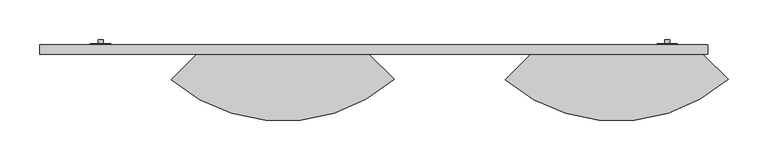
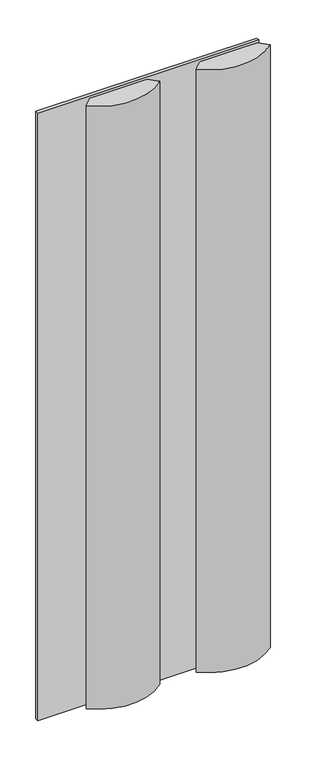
"""IFC4 building model written with IfcOpenShell, lengths in millimetres: proxy geometry, Arktura-SoundForm-Arc-RFA : Arktura-SoundForm-Arc-RFA."""

from ifc_helpers import new_model, si_unit, point, frame, frame_2d, origin, origin_with_axes, place, context, project, spatial, polyline, circle_curve, trimmed, segment, composite_curve, outline, extrude, source, transform, mapped, element, save


def generic_models_df765468(model_context):
    return source(origin(), model_context, "Body", "SweptSolid", [
        extrude(outline(polyline([(-152.4, -31.75), (-177.8, -31.75), (-177.8, -30.3215536), (-152.4, -30.3215536), (-152.4, -31.75)])), frame((0.0, 0.0, 1206.5), z_axis=(0.0, 0.0, 1.0), x_axis=(1.0, 0.0, 0.0)), (0.0, 0.0, 1.0), 25.4),
        extrude(outline(composite_curve([segment(trimmed(circle_curve(frame_2d((1219.2, -165.1)), 3.175), [point((1219.2, -168.275))], [point((1219.2, -161.925))], False, "CARTESIAN"), True, "CONTINUOUS"), segment(trimmed(circle_curve(frame_2d((1219.2, -165.1)), 3.175), [point((1219.2, -161.925))], [point((1219.2, -168.275))], False, "CARTESIAN"), True, "CONTINUOUS")], self_intersect=False)), frame((0.0, -30.3215536, 0.0), z_axis=(0.0, 1.0, 0.0), x_axis=(0.0, 0.0, 1.0)), (0.0, 0.0, 1.0), 4.9215536),
        extrude(outline(polyline([(558.8, -31.75), (533.4, -31.75), (533.4, -30.3215536), (558.8, -30.3215536), (558.8, -31.75)])), frame((0.0, 0.0, 1206.5), z_axis=(0.0, 0.0, 1.0), x_axis=(1.0, 0.0, 0.0)), (0.0, 0.0, 1.0), 25.4),
        extrude(outline(composite_curve([segment(trimmed(circle_curve(frame_2d((1219.2, 546.1)), 3.175), [point((1219.2, 542.925))], [point((1219.2, 549.275))], False, "CARTESIAN"), True, "CONTINUOUS"), segment(trimmed(circle_curve(frame_2d((1219.2, 546.1)), 3.175), [point((1219.2, 549.275))], [point((1219.2, 542.925))], False, "CARTESIAN"), True, "CONTINUOUS")], self_intersect=False)), frame((0.0, -30.3215536, 0.0), z_axis=(0.0, 1.0, 0.0), x_axis=(0.0, 0.0, 1.0)), (0.0, 0.0, 1.0), 4.9215536),
        extrude(outline(polyline([(-152.4, -31.75), (-177.8, -31.75), (-177.8, -30.3215536), (-152.4, -30.3215536), (-152.4, -31.75)])), frame((0.0, 0.0, 2352.675), z_axis=(0.0, 0.0, 1.0), x_axis=(1.0, 0.0, 0.0)), (0.0, 0.0, 1.0), 25.4),
        extrude(outline(composite_curve([segment(trimmed(circle_curve(frame_2d((2365.375, -165.1)), 3.175), [point((2365.375, -168.275))], [point((2365.375, -161.925))], False, "CARTESIAN"), True, "CONTINUOUS"), segment(trimmed(circle_curve(frame_2d((2365.375, -165.1)), 3.175), [point((2365.375, -161.925))], [point((2365.375, -168.275))], False, "CARTESIAN"), True, "CONTINUOUS")], self_intersect=False)), frame((0.0, -30.3215536, 0.0), z_axis=(0.0, 1.0, 0.0), x_axis=(0.0, 0.0, 1.0)), (0.0, 0.0, 1.0), 4.9215536),
        extrude(outline(polyline([(558.8, -31.75), (533.4, -31.75), (533.4, -30.3215536), (558.8, -30.3215536), (558.8, -31.75)])), frame((0.0, 0.0, 2352.675), z_axis=(0.0, 0.0, 1.0), x_axis=(1.0, 0.0, 0.0)), (0.0, 0.0, 1.0), 25.4),
        extrude(outline(composite_curve([segment(trimmed(circle_curve(frame_2d((2365.375, 546.1)), 3.175), [point((2365.375, 542.925))], [point((2365.375, 549.275))], False, "CARTESIAN"), True, "CONTINUOUS"), segment(trimmed(circle_curve(frame_2d((2365.375, 546.1)), 3.175), [point((2365.375, 549.275))], [point((2365.375, 542.925))], False, "CARTESIAN"), True, "CONTINUOUS")], self_intersect=False)), frame((0.0, -30.3215536, 0.0), z_axis=(0.0, 1.0, 0.0), x_axis=(0.0, 0.0, 1.0)), (0.0, 0.0, 1.0), 4.9215536),
        extrude(outline(polyline([(558.8, -31.75), (533.4, -31.75), (533.4, -30.3215536), (558.8, -30.3215536), (558.8, -31.75)])), frame((0.0, 0.0, 60.325), z_axis=(0.0, 0.0, 1.0), x_axis=(1.0, 0.0, 0.0)), (0.0, 0.0, 1.0), 25.4),
        extrude(outline(composite_curve([segment(trimmed(circle_curve(frame_2d((73.025, 546.1)), 3.175), [point((73.025, 542.925))], [point((73.025, 549.275))], False, "CARTESIAN"), True, "CONTINUOUS"), segment(trimmed(circle_curve(frame_2d((73.025, 546.1)), 3.175), [point((73.025, 549.275))], [point((73.025, 542.925))], False, "CARTESIAN"), True, "CONTINUOUS")], self_intersect=False)), frame((0.0, -30.3215536, 0.0), z_axis=(0.0, 1.0, 0.0), x_axis=(0.0, 0.0, 1.0)), (0.0, 0.0, 1.0), 4.9215536),
        extrude(outline(polyline([(-152.4, -31.75), (-177.8, -31.75), (-177.8, -30.3215536), (-152.4, -30.3215536), (-152.4, -31.75)])), frame((0.0, 0.0, 60.325), z_axis=(0.0, 0.0, 1.0), x_axis=(1.0, 0.0, 0.0)), (0.0, 0.0, 1.0), 25.4),
        extrude(outline(composite_curve([segment(trimmed(circle_curve(frame_2d((73.025, -165.1)), 3.175), [point((73.025, -168.275))], [point((73.025, -161.925))], False, "CARTESIAN"), True, "CONTINUOUS"), segment(trimmed(circle_curve(frame_2d((73.025, -165.1)), 3.175), [point((73.025, -161.925))], [point((73.025, -168.275))], False, "CARTESIAN"), True, "CONTINUOUS")], self_intersect=False)), frame((0.0, -30.3215536, 0.0), z_axis=(0.0, 1.0, 0.0), x_axis=(0.0, 0.0, 1.0)), (0.0, 0.0, 1.0), 4.9215536),
        extrude(outline(polyline([(-241.3, -43.749976), (-241.3, -31.75), (596.9, -31.75), (596.9, -43.749976), (-241.3, -43.749976)])), origin_with_axes(), (0.0, 0.0, 1.0), 2438.4),
        extrude(outline(composite_curve([segment(polyline([(482.4682133, -43.7499999), (590.5500179, -43.7499999), (622.4852586, -75.1103039)]), True, "CONTINUOUS"), segment(trimmed(circle_curve(frame_2d((482.4682133, 85.7082914)), 213.2308457), [point((622.4852586, -75.1103039))], [point((342.9, -75.499982))], False, "CARTESIAN"), True, "CONTINUOUS"), segment(polyline([(342.9, -75.499982), (374.6499821, -43.7499999), (482.4682133, -43.7499999)]), True, "CONTINUOUS")], self_intersect=False)), frame((0.0, 0.0, 9.525), z_axis=(0.0, 0.0, 1.0), x_axis=(1.0, 0.0, 0.0)), (0.0, 0.0, 1.0), 2419.35),
        extrude(outline(composite_curve([segment(polyline([(63.3682133, -43.7499999), (171.4500179, -43.7499999), (203.3852586, -75.1103039)]), True, "CONTINUOUS"), segment(trimmed(circle_curve(frame_2d((63.3682133, 85.7082914)), 213.2308457), [point((203.3852586, -75.1103039))], [point((-76.2, -75.499982))], False, "CARTESIAN"), True, "CONTINUOUS"), segment(polyline([(-76.2, -75.499982), (-44.4500179, -43.7499999), (63.3682133, -43.7499999)]), True, "CONTINUOUS")], self_intersect=False)), frame((0.0, 0.0, 9.525), z_axis=(0.0, 0.0, 1.0), x_axis=(1.0, 0.0, 0.0)), (0.0, 0.0, 1.0), 2419.35),
    ])


if __name__ == "__main__":
    model = new_model("IFC4")
    model_context = context("Model", 3, world=origin())
    ifc_project = project(units=[si_unit("LENGTHUNIT", "METRE", prefix="MILLI")], contexts=[model_context])
    site = spatial("IfcSite", under=ifc_project)
    building = spatial("IfcBuilding", under=site)
    placement = place(None, origin())
    generic_models_shape = generic_models_df765468(model_context)
    element("IfcBuildingElementProxy", 1, Name="Arktura-SoundForm-Arc-RFA : Arktura-SoundForm-Arc-RFA", ObjectType="Arktura-SoundForm-Arc-RFA : Arktura-SoundForm-Arc-RFA", at=placement, inside=building, context=model_context, shape_type="MappedRepresentation", body=[
        mapped(generic_models_shape, transform((0.0, 0.0, 0.0), x_axis=(1.0, 0.0, 0.0), y_axis=(0.0, 1.0, 0.0), z_axis=(0.0, 0.0, 1.0))),
    ])
    save(model, "model.ifc")
